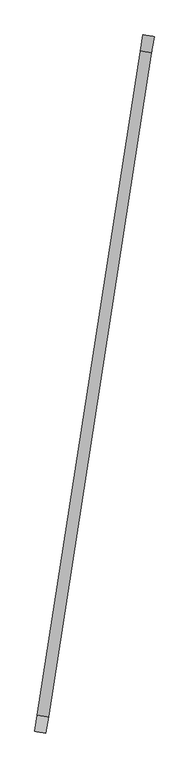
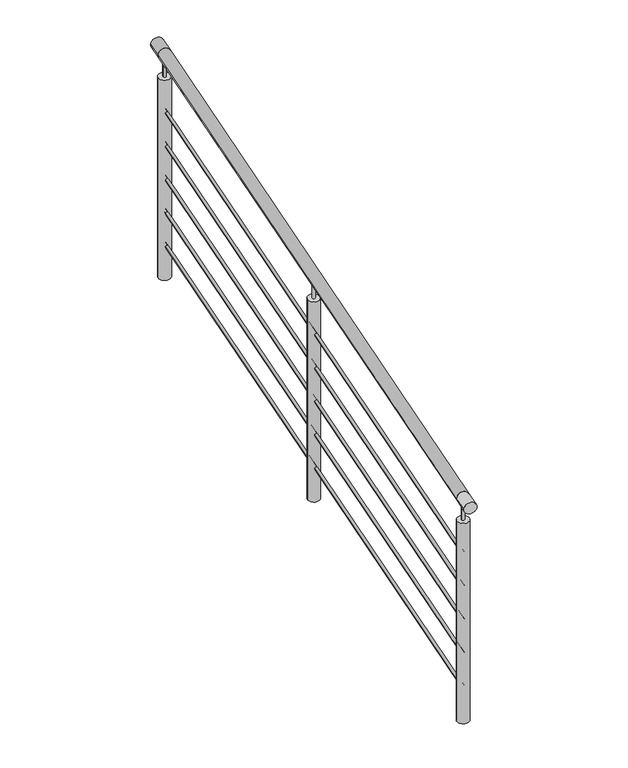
"""IFC4 building model written with IfcOpenShell, lengths in millimetres: railing geometry, Barandal acero inox - sobre balcón."""

from ifc_helpers import new_model, si_unit, point, frame, frame_2d, origin, origin_2d, place, context, project, spatial, circle_curve, trimmed, segment, composite_curve, outline, extrude, source, transform, mapped, element, save


def railing_b536c848(model_context):
    return source(origin(), model_context, "Body", "SweptSolid", [
        extrude(outline(composite_curve([segment(trimmed(circle_curve(origin_2d(), 25.4), [point((-25.4, 0.0))], [point((25.4, 0.0))], False, "CARTESIAN"), True, "CONTINUOUS"), segment(trimmed(circle_curve(origin_2d(), 25.4), [point((25.4, 0.0))], [point((-25.4, 0.0))], False, "CARTESIAN"), True, "CONTINUOUS")], self_intersect=False)), frame((-33520.5298956, -69373.4813061, 7400.0), z_axis=(0.15400987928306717, 0.9880693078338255, 0.0), x_axis=(0.9880693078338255, -0.15400987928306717, 0.0)), (0.0, 0.0, 1.0), 3049.0611062),
        extrude(outline(composite_curve([segment(trimmed(circle_curve(origin_2d(), 6.35), [point((-6.35, 0.0))], [point((6.35, 0.0))], False, "CARTESIAN"), True, "CONTINUOUS"), segment(trimmed(circle_curve(origin_2d(), 6.35), [point((6.35, 0.0))], [point((-6.35, 0.0))], False, "CARTESIAN"), True, "CONTINUOUS")], self_intersect=False)), frame((-33520.5298956, -69373.4813061, 7150.0), z_axis=(0.15400987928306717, 0.9880693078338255, 0.0), x_axis=(0.9880693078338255, -0.15400987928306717, 0.0)), (0.0, 0.0, 1.0), 3049.0611062),
        extrude(outline(composite_curve([segment(trimmed(circle_curve(origin_2d(), 6.35), [point((-6.35, 0.0))], [point((6.35, 0.0))], False, "CARTESIAN"), True, "CONTINUOUS"), segment(trimmed(circle_curve(origin_2d(), 6.35), [point((6.35, 0.0))], [point((-6.35, 0.0))], False, "CARTESIAN"), True, "CONTINUOUS")], self_intersect=False)), frame((-33520.5298956, -69373.4813061, 7000.0), z_axis=(0.15400987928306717, 0.9880693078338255, 0.0), x_axis=(0.9880693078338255, -0.15400987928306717, 0.0)), (0.0, 0.0, 1.0), 3049.0611062),
        extrude(outline(composite_curve([segment(trimmed(circle_curve(origin_2d(), 6.35), [point((-6.35, 0.0))], [point((6.35, 0.0))], False, "CARTESIAN"), True, "CONTINUOUS"), segment(trimmed(circle_curve(origin_2d(), 6.35), [point((6.35, 0.0))], [point((-6.35, 0.0))], False, "CARTESIAN"), True, "CONTINUOUS")], self_intersect=False)), frame((-33520.5298956, -69373.4813061, 6850.0), z_axis=(0.15400987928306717, 0.9880693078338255, 0.0), x_axis=(0.9880693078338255, -0.15400987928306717, 0.0)), (0.0, 0.0, 1.0), 3049.0611062),
        extrude(outline(composite_curve([segment(trimmed(circle_curve(origin_2d(), 6.35), [point((-6.35, 0.0))], [point((6.35, 0.0))], False, "CARTESIAN"), True, "CONTINUOUS"), segment(trimmed(circle_curve(origin_2d(), 6.35), [point((6.35, 0.0))], [point((-6.35, 0.0))], False, "CARTESIAN"), True, "CONTINUOUS")], self_intersect=False)), frame((-33520.5298956, -69373.4813061, 6700.0), z_axis=(0.15400987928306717, 0.9880693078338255, 0.0), x_axis=(0.9880693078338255, -0.15400987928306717, 0.0)), (0.0, 0.0, 1.0), 3049.0611062),
        extrude(outline(composite_curve([segment(trimmed(circle_curve(origin_2d(), 6.35), [point((-6.35, 0.0))], [point((6.35, 0.0))], False, "CARTESIAN"), True, "CONTINUOUS"), segment(trimmed(circle_curve(origin_2d(), 6.35), [point((6.35, 0.0))], [point((-6.35, 0.0))], False, "CARTESIAN"), True, "CONTINUOUS")], self_intersect=False)), frame((-33520.5298956, -69373.4813061, 6550.0), z_axis=(0.15400987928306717, 0.9880693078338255, 0.0), x_axis=(0.9880693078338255, -0.15400987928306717, 0.0)), (0.0, 0.0, 1.0), 3049.0611062),
        extrude(outline(composite_curve([segment(trimmed(circle_curve(frame_2d((-33285.7371291, -67867.1394578)), 6.35), [point((-33279.462889, -67868.1174205))], [point((-33292.0113692, -67866.161495))], False, "CARTESIAN"), True, "CONTINUOUS"), segment(trimmed(circle_curve(frame_2d((-33285.7371291, -67867.1394578)), 6.35), [point((-33292.0113692, -67866.161495))], [point((-33279.462889, -67868.1174205))], False, "CARTESIAN"), True, "CONTINUOUS")], self_intersect=False)), frame((0.0, 0.0, 7299.6), z_axis=(0.0, 0.0, 1.0), x_axis=(1.0, 0.0, 0.0)), (0.0, 0.0, 1.0), 75.0),
        extrude(outline(composite_curve([segment(trimmed(circle_curve(frame_2d((-33285.7371291, -67867.1394578)), 25.4), [point((-33260.6401687, -67871.0513087))], [point((-33310.8340895, -67863.2276068))], False, "CARTESIAN"), True, "CONTINUOUS"), segment(trimmed(circle_curve(frame_2d((-33285.7371291, -67867.1394578)), 25.4), [point((-33310.8340895, -67863.2276068))], [point((-33260.6401687, -67871.0513087))], False, "CARTESIAN"), True, "CONTINUOUS")], self_intersect=False)), frame((0.0, 0.0, 6400.0), z_axis=(0.0, 0.0, 1.0), x_axis=(1.0, 0.0, 0.0)), (0.0, 0.0, 1.0), 899.6),
        extrude(outline(composite_curve([segment(trimmed(circle_curve(frame_2d((0.0, 25.4)), 25.4), [point((0.0, 50.8))], [point((0.0, 0.0))], False, "CARTESIAN"), True, "CONTINUOUS"), segment(trimmed(circle_curve(frame_2d((0.0, 25.4)), 25.4), [point((0.0, 0.0))], [point((0.0, 50.8))], False, "CARTESIAN"), True, "CONTINUOUS")], self_intersect=False)), frame((-33557.1775969, -69443.6746533, 7400.0), z_axis=(0.15400987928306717, 0.9880693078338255, 0.0), x_axis=(0.0, 0.0, 1.0)), (0.0, 0.0, 1.0), 75.0),
        extrude(outline(composite_curve([segment(trimmed(circle_curve(frame_2d((-33520.5298956, -69373.4813061)), 6.35), [point((-33514.2556555, -69374.4592689))], [point((-33526.8041357, -69372.5033434))], False, "CARTESIAN"), True, "CONTINUOUS"), segment(trimmed(circle_curve(frame_2d((-33520.5298956, -69373.4813061)), 6.35), [point((-33526.8041357, -69372.5033434))], [point((-33514.2556555, -69374.4592689))], False, "CARTESIAN"), True, "CONTINUOUS")], self_intersect=False)), frame((0.0, 0.0, 7299.6), z_axis=(0.0, 0.0, 1.0), x_axis=(1.0, 0.0, 0.0)), (0.0, 0.0, 1.0), 75.0),
        extrude(outline(composite_curve([segment(trimmed(circle_curve(frame_2d((-33520.5298956, -69373.4813061)), 25.4), [point((-33495.4329352, -69377.3931571))], [point((-33545.626856, -69369.5694552))], False, "CARTESIAN"), True, "CONTINUOUS"), segment(trimmed(circle_curve(frame_2d((-33520.5298956, -69373.4813061)), 25.4), [point((-33545.626856, -69369.5694552))], [point((-33495.4329352, -69377.3931571))], False, "CARTESIAN"), True, "CONTINUOUS")], self_intersect=False)), frame((0.0, 0.0, 6400.0), z_axis=(0.0, 0.0, 1.0), x_axis=(1.0, 0.0, 0.0)), (0.0, 0.0, 1.0), 899.6),
        extrude(outline(composite_curve([segment(trimmed(circle_curve(frame_2d((0.0, 25.4)), 25.4), [point((0.0, 50.8))], [point((0.0, 0.0))], False, "CARTESIAN"), True, "CONTINUOUS"), segment(trimmed(circle_curve(frame_2d((0.0, 25.4)), 25.4), [point((0.0, 0.0))], [point((0.0, 50.8))], False, "CARTESIAN"), True, "CONTINUOUS")], self_intersect=False)), frame((-33076.0413231, -66356.8857585, 7400.0), z_axis=(0.15400987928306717, 0.9880693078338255, 0.0), x_axis=(0.0, 0.0, 1.0)), (0.0, 0.0, 1.0), 75.0),
        extrude(outline(composite_curve([segment(trimmed(circle_curve(frame_2d((-33050.9443627, -66360.7976094)), 6.35), [point((-33044.6701226, -66361.7755721))], [point((-33057.2186028, -66359.8196467))], False, "CARTESIAN"), True, "CONTINUOUS"), segment(trimmed(circle_curve(frame_2d((-33050.9443627, -66360.7976094)), 6.35), [point((-33057.2186028, -66359.8196467))], [point((-33044.6701226, -66361.7755721))], False, "CARTESIAN"), True, "CONTINUOUS")], self_intersect=False)), frame((0.0, 0.0, 7299.6), z_axis=(0.0, 0.0, 1.0), x_axis=(1.0, 0.0, 0.0)), (0.0, 0.0, 1.0), 75.0),
        extrude(outline(composite_curve([segment(trimmed(circle_curve(frame_2d((-33050.9443627, -66360.7976094)), 25.4), [point((-33025.8474023, -66364.7094603))], [point((-33076.0413231, -66356.8857585))], False, "CARTESIAN"), True, "CONTINUOUS"), segment(trimmed(circle_curve(frame_2d((-33050.9443627, -66360.7976094)), 25.4), [point((-33076.0413231, -66356.8857585))], [point((-33025.8474023, -66364.7094603))], False, "CARTESIAN"), True, "CONTINUOUS")], self_intersect=False)), frame((0.0, 0.0, 6400.0), z_axis=(0.0, 0.0, 1.0), x_axis=(1.0, 0.0, 0.0)), (0.0, 0.0, 1.0), 899.6),
    ])


if __name__ == "__main__":
    model = new_model("IFC4")
    model_context = context("Model", 3, world=origin())
    ifc_project = project(units=[si_unit("LENGTHUNIT", "METRE", prefix="MILLI")], contexts=[model_context])
    site = spatial("IfcSite", under=ifc_project)
    building = spatial("IfcBuilding", under=site)
    placement = place(None, origin())
    railing_shape = railing_b536c848(model_context)
    element("IfcRailing", 1, ObjectType="Barandal acero inox - sobre balcón", at=placement, inside=building, context=model_context, shape_type="MappedRepresentation", body=[
        mapped(railing_shape, transform((0.0, 0.0, 0.0), x_axis=(1.0, 0.0, 0.0), y_axis=(0.0, 1.0, 0.0), z_axis=(0.0, 0.0, 1.0))),
    ])
    save(model, "model.ifc")
